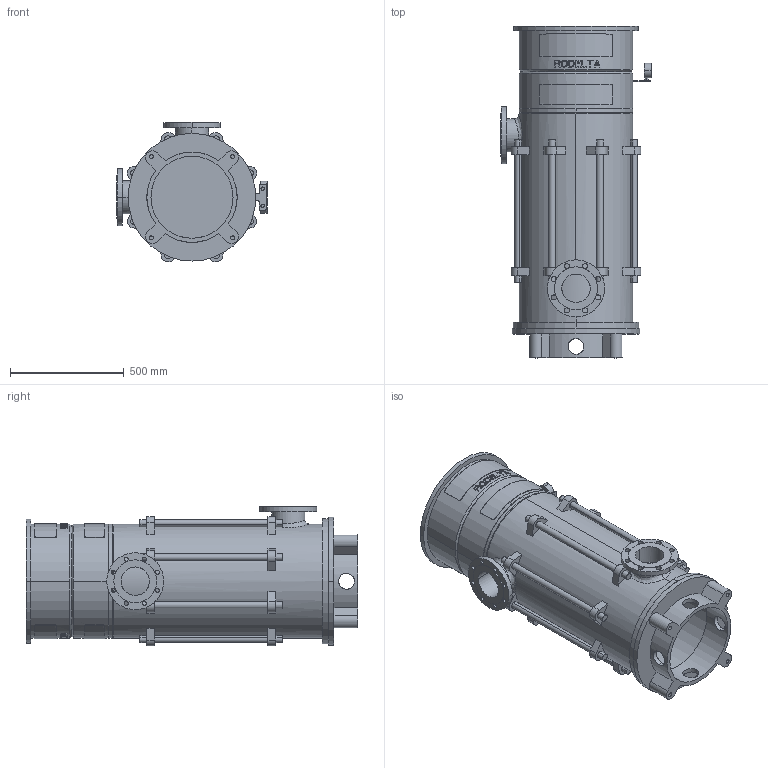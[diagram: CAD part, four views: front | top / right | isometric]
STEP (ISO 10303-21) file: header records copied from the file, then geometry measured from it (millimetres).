
FILE_DESCRIPTION((''),'2;1');
FILE_NAME('LS5_5TR_0GR_ABOVE_30KW','2023-08-08T',('Lyritlocal'),(''),'PRO/ENGINEER BY PARAMETRIC TECHNOLOGY CORPORATION, 2016360','PRO/ENGINEER BY PARAMETRIC TECHNOLOGY CORPORATION, 2016360','');
FILE_SCHEMA(('CONFIG_CONTROL_DESIGN'));
Length unit declared in the file: millimetre
Products named in the file (1): LS5_5TR_0GR_ABOVE_30KW
Bounding box: 660 x 1456 x 614.04 mm (x, y, z)
Volume: 44157365 mm3; surface area: 6451066.5 mm2
Topology: 3 solids, 7 shells, 672 faces, 1749 edges, 1158 vertices
Faces by surface type: plane 414, cylinder 242, cone 12, bspline 4
Entity records: 21991 total; most frequent: CARTESIAN_POINT 5539, ORIENTED_EDGE 3482, DIRECTION 3271, EDGE_CURVE 1749, AXIS2_PLACEMENT_3D 1241, VERTEX_POINT 1158, EDGE_LOOP 807, VECTOR 789
